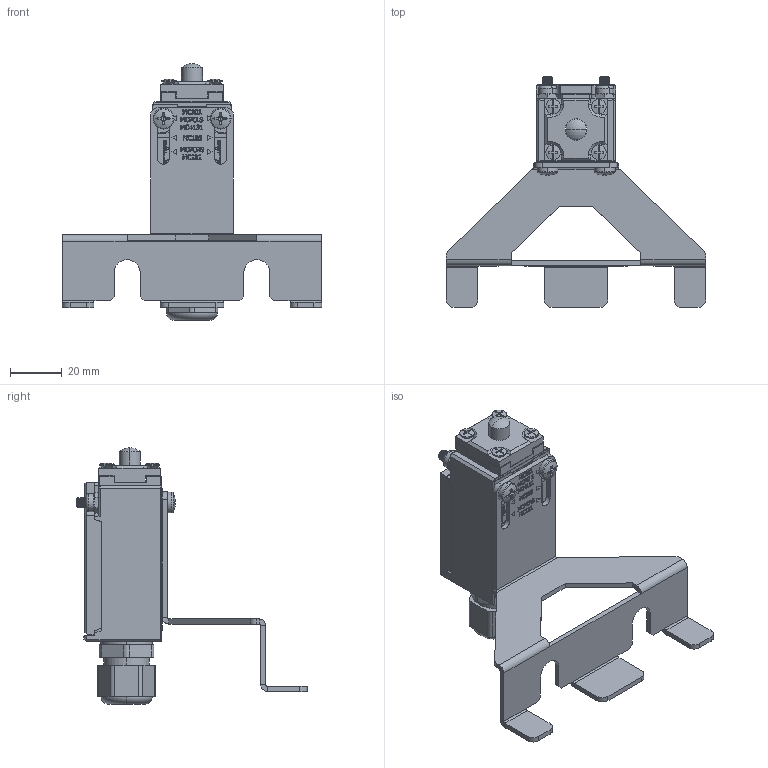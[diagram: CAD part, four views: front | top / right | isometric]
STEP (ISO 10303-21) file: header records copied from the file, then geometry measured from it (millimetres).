
FILE_DESCRIPTION (( 'STEP AP214' ), '1' );
FILE_NAME ('Êðîíøòåéí ñ êîíöåâèêîì.STEP', '2025-09-03T07:14:10', ( '' ), ( '' ), 'SwSTEP 2.0', 'SolidWorks 2022', '' );
FILE_SCHEMA (( 'AUTOMOTIVE_DESIGN' ));
Length unit declared in the file: millimetre
Products named in the file (5): M4x35 DIN 7985 PH cl.4,8 Zinc_thread; RB.3534.00.00.0; R5MC101; Кронштейн с концевиком; M4 DIN 985 cl.5,0 Zinc_thread
Assembly tree (6 placements, depth 2):
  Кронштейн с концевиком
    RB.3534.00.00.0
    M4 DIN 985 cl.5,0 Zinc_thread  x2
    M4x35 DIN 7985 PH cl.4,8 Zinc_thread  x2
    R5MC101
Bounding box: 100 x 88.95 x 98.87 mm (x, y, z)
Volume: 13523.2 mm3; surface area: 32599.4 mm2
Topology: 5 solids, 18 shells, 2289 faces, 5683 edges, 3447 vertices
Faces by surface type: plane 751, cone 462, torus 416, cylinder 354, bspline 290, sphere 16
Entity records: 69046 total; most frequent: CARTESIAN_POINT 23175, ORIENTED_EDGE 8643, DIRECTION 7814, EDGE_CURVE 4493, VERTEX_POINT 2832, VECTOR 2632, LINE 2632, AXIS2_PLACEMENT_3D 2591
